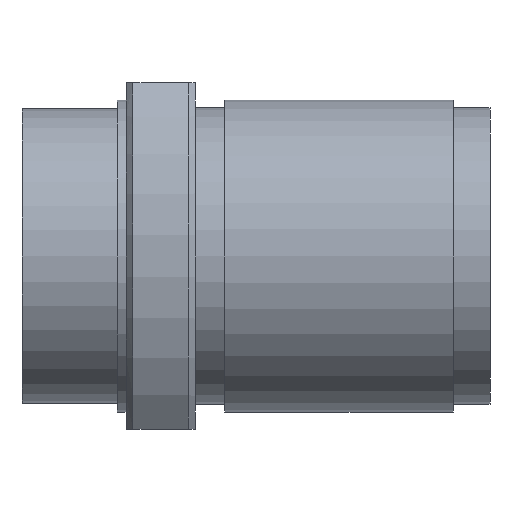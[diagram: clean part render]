
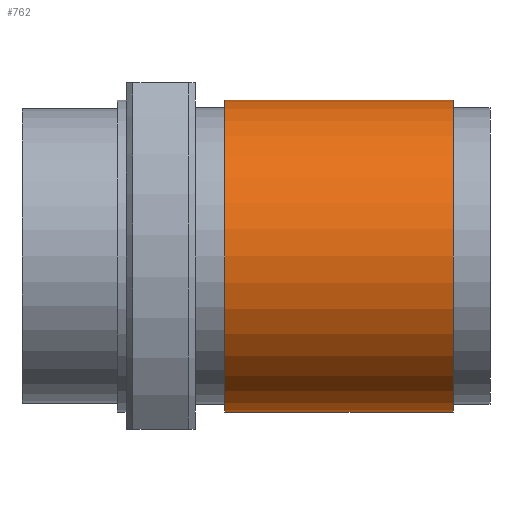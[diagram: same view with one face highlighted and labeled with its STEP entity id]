
A CAD part, front view. The second image highlights one B-rep face of the part: STEP entity #762.
In plain terms, the highlighted cylindrical face has radius 9 mm (diameter 18 mm), a full revolution.
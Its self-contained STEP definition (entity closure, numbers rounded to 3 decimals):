
#67=CYLINDRICAL_SURFACE('',#872,9.);
#137=ORIENTED_EDGE('',*,*,#288,.T.);
#138=ORIENTED_EDGE('',*,*,#287,.F.);
#287=EDGE_CURVE('',#367,#367,#437,.T.);
#288=EDGE_CURVE('',#368,#368,#438,.T.);
#367=VERTEX_POINT('',#1311);
#368=VERTEX_POINT('',#1314);
#437=CIRCLE('',#871,9.);
#438=CIRCLE('',#873,9.);
#508=EDGE_LOOP('',(#137));
#509=EDGE_LOOP('',(#138));
#630=FACE_BOUND('',#508,.T.);
#631=FACE_BOUND('',#509,.T.);
#762=ADVANCED_FACE('',(#630,#631),#67,.T.);
#871=AXIS2_PLACEMENT_3D('',#1310,#1038,#1039);
#872=AXIS2_PLACEMENT_3D('',#1312,#1040,#1041);
#873=AXIS2_PLACEMENT_3D('',#1313,#1042,#1043);
#1038=DIRECTION('',(1.,0.,0.));
#1039=DIRECTION('',(0.,0.,-1.));
#1040=DIRECTION('',(1.,0.,0.));
#1041=DIRECTION('',(0.,0.,-1.));
#1042=DIRECTION('',(1.,0.,0.));
#1043=DIRECTION('',(0.,0.,-1.));
#1310=CARTESIAN_POINT('',(24.875,0.,0.));
#1311=CARTESIAN_POINT('',(24.875,0.,-9.));
#1312=CARTESIAN_POINT('',(27.,0.,0.));
#1313=CARTESIAN_POINT('',(11.7,0.,0.));
#1314=CARTESIAN_POINT('',(11.7,0.,-9.));
